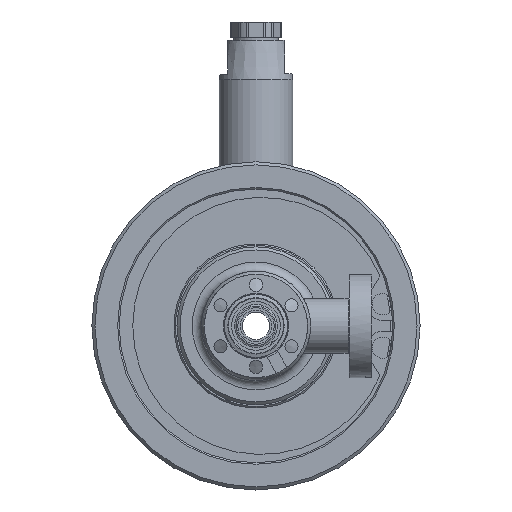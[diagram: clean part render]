
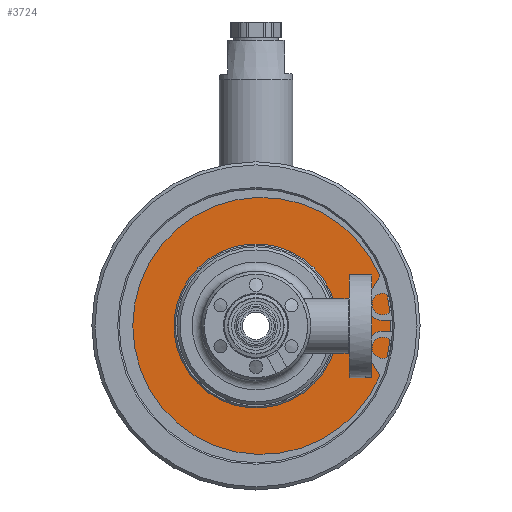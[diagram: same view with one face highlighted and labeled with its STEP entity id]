
A CAD part, front view. The second image highlights one B-rep face of the part: STEP entity #3724.
In plain terms, the highlighted planar face has unit normal (0, -1, 0) as drawn and (1, 0, 0) by its records, which use the part's own axes.
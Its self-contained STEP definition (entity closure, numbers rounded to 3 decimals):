
#3724=ADVANCED_FACE('',(#4628,#4629),#4227,.T.);
#4227=PLANE('',#10949);
#4628=FACE_BOUND('',#5251,.T.);
#4629=FACE_BOUND('',#5252,.T.);
#5251=EDGE_LOOP('',(#6188));
#5252=EDGE_LOOP('',(#6189));
#6188=ORIENTED_EDGE('',*,*,#9316,.T.);
#6189=ORIENTED_EDGE('',*,*,#9315,.F.);
#8395=VERTEX_POINT('',#14594);
#8396=VERTEX_POINT('',#14597);
#9315=EDGE_CURVE('',#8395,#8395,#10435,.T.);
#9316=EDGE_CURVE('',#8396,#8396,#10436,.T.);
#10435=CIRCLE('',#10946,44.425);
#10436=CIRCLE('',#10948,15.);
#10946=AXIS2_PLACEMENT_3D('',#14593,#12115,#12116);
#10948=AXIS2_PLACEMENT_3D('',#14596,#12119,#12120);
#10949=AXIS2_PLACEMENT_3D('',#14598,#12121,#12122);
#12115=DIRECTION('',(-1.,0.,0.));
#12116=DIRECTION('',(0.,0.,1.));
#12119=DIRECTION('',(-1.,0.,0.));
#12120=DIRECTION('',(0.,0.,1.));
#12121=DIRECTION('',(1.,0.,0.));
#12122=DIRECTION('',(0.,0.,-1.));
#14593=CARTESIAN_POINT('',(9.,0.,0.));
#14594=CARTESIAN_POINT('',(9.,0.,44.425));
#14596=CARTESIAN_POINT('',(9.,0.,0.));
#14597=CARTESIAN_POINT('',(9.,0.,15.));
#14598=CARTESIAN_POINT('',(9.,44.425,0.));
